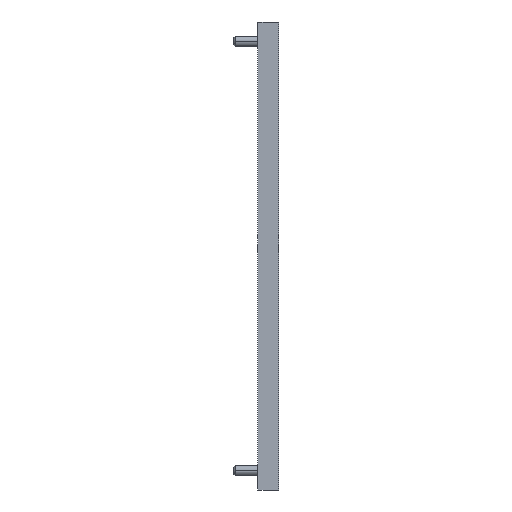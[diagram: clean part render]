
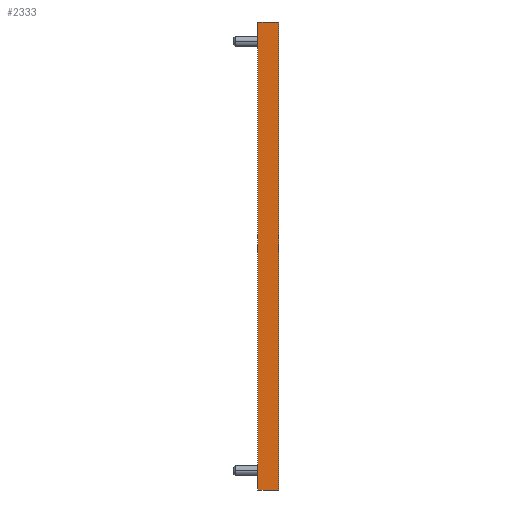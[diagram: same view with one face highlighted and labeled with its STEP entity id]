
A CAD part, left-side view. The second image highlights one B-rep face of the part: STEP entity #2333.
In plain terms, the highlighted planar face has unit normal (-1, 0, 0).
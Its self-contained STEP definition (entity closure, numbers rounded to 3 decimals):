
#4 = EDGE_CURVE ( 'NONE', #1565, #1501, #2536, .T. ) ;
#13 = DIRECTION ( 'NONE',  ( 0., 0., 1. ) ) ;
#282 = ORIENTED_EDGE ( 'NONE', *, *, #1559, .T. ) ;
#427 = CARTESIAN_POINT ( 'NONE',  ( -8., 0., 0. ) ) ;
#467 = VERTEX_POINT ( 'NONE', #1545 ) ;
#494 = EDGE_CURVE ( 'NONE', #1654, #1558, #2586, .T. ) ;
#499 = VECTOR ( 'NONE', #1811, 1000. ) ;
#555 = DIRECTION ( 'NONE',  ( 0., -1., 0. ) ) ;
#567 = LINE ( 'NONE', #427, #499 ) ;
#707 = EDGE_LOOP ( 'NONE', ( #2862, #282, #928, #2315, #2101, #3214, #2224, #830 ) ) ;
#762 = CARTESIAN_POINT ( 'NONE',  ( -8., 0., 279. ) ) ;
#830 = ORIENTED_EDGE ( 'NONE', *, *, #1945, .F. ) ;
#873 = CARTESIAN_POINT ( 'NONE',  ( -8., 9.3, 279. ) ) ;
#908 = CARTESIAN_POINT ( 'NONE',  ( -8., 0., 0. ) ) ;
#928 = ORIENTED_EDGE ( 'NONE', *, *, #2994, .T. ) ;
#950 = DIRECTION ( 'NONE',  ( 0., 0., 1. ) ) ;
#1005 = VECTOR ( 'NONE', #1936, 1000. ) ;
#1071 = VECTOR ( 'NONE', #555, 1000. ) ;
#1215 = EDGE_CURVE ( 'NONE', #1606, #3189, #1395, .T. ) ;
#1242 = FACE_OUTER_BOUND ( 'NONE', #707, .T. ) ;
#1290 = DIRECTION ( 'NONE',  ( -1., 0., 0. ) ) ;
#1366 = VECTOR ( 'NONE', #3043, 1000. ) ;
#1395 = LINE ( 'NONE', #2456, #2210 ) ;
#1488 = CARTESIAN_POINT ( 'NONE',  ( -8., 12.5, 279. ) ) ;
#1501 = VERTEX_POINT ( 'NONE', #1883 ) ;
#1545 = CARTESIAN_POINT ( 'NONE',  ( -8., 9.3, 0. ) ) ;
#1558 = VERTEX_POINT ( 'NONE', #873 ) ;
#1559 = EDGE_CURVE ( 'NONE', #1606, #467, #567, .T. ) ;
#1565 = VERTEX_POINT ( 'NONE', #908 ) ;
#1570 = EDGE_CURVE ( 'NONE', #2535, #1565, #2135, .T. ) ;
#1606 = VERTEX_POINT ( 'NONE', #1612 ) ;
#1612 = CARTESIAN_POINT ( 'NONE',  ( -8., 12.5, 0. ) ) ;
#1631 = DIRECTION ( 'NONE',  ( 0., -1., 0. ) ) ;
#1654 = VERTEX_POINT ( 'NONE', #3161 ) ;
#1728 = CARTESIAN_POINT ( 'NONE',  ( -8., 0., 279. ) ) ;
#1784 = CARTESIAN_POINT ( 'NONE',  ( -8., 12.5, 279. ) ) ;
#1811 = DIRECTION ( 'NONE',  ( 0., -1., 0. ) ) ;
#1812 = AXIS2_PLACEMENT_3D ( 'NONE', #762, #1290, #13 ) ;
#1821 = DIRECTION ( 'NONE',  ( 0., 0., 1. ) ) ;
#1883 = CARTESIAN_POINT ( 'NONE',  ( -8., 0., 279. ) ) ;
#1916 = VECTOR ( 'NONE', #1821, 1000. ) ;
#1936 = DIRECTION ( 'NONE',  ( 0., 1., 0. ) ) ;
#1945 = EDGE_CURVE ( 'NONE', #3189, #1558, #1957, .T. ) ;
#1957 = LINE ( 'NONE', #1488, #3082 ) ;
#2101 = ORIENTED_EDGE ( 'NONE', *, *, #4, .T. ) ;
#2135 = LINE ( 'NONE', #2828, #1071 ) ;
#2136 = EDGE_CURVE ( 'NONE', #1501, #1654, #2166, .T. ) ;
#2166 = LINE ( 'NONE', #1728, #1005 ) ;
#2210 = VECTOR ( 'NONE', #950, 1000. ) ;
#2224 = ORIENTED_EDGE ( 'NONE', *, *, #494, .T. ) ;
#2315 = ORIENTED_EDGE ( 'NONE', *, *, #1570, .T. ) ;
#2333 = ADVANCED_FACE ( 'NONE', ( #1242 ), #3084, .T. ) ;
#2456 = CARTESIAN_POINT ( 'NONE',  ( -8., 12.5, 279. ) ) ;
#2506 = CARTESIAN_POINT ( 'NONE',  ( -8., 0., 279. ) ) ;
#2535 = VERTEX_POINT ( 'NONE', #2905 ) ;
#2536 = LINE ( 'NONE', #2506, #1916 ) ;
#2586 = LINE ( 'NONE', #2825, #1366 ) ;
#2627 = LINE ( 'NONE', #2876, #2768 ) ;
#2768 = VECTOR ( 'NONE', #1631, 1000. ) ;
#2825 = CARTESIAN_POINT ( 'NONE',  ( -8., 0., 279. ) ) ;
#2828 = CARTESIAN_POINT ( 'NONE',  ( -8., 0., 0. ) ) ;
#2862 = ORIENTED_EDGE ( 'NONE', *, *, #1215, .F. ) ;
#2876 = CARTESIAN_POINT ( 'NONE',  ( -8., 0., 0. ) ) ;
#2905 = CARTESIAN_POINT ( 'NONE',  ( -8., 3.2, 0. ) ) ;
#2994 = EDGE_CURVE ( 'NONE', #467, #2535, #2627, .T. ) ;
#3016 = DIRECTION ( 'NONE',  ( 0., -1., 0. ) ) ;
#3043 = DIRECTION ( 'NONE',  ( 0., 1., 0. ) ) ;
#3082 = VECTOR ( 'NONE', #3016, 1000. ) ;
#3084 = PLANE ( 'NONE',  #1812 ) ;
#3161 = CARTESIAN_POINT ( 'NONE',  ( -8., 3.2, 279. ) ) ;
#3189 = VERTEX_POINT ( 'NONE', #1784 ) ;
#3214 = ORIENTED_EDGE ( 'NONE', *, *, #2136, .T. ) ;
